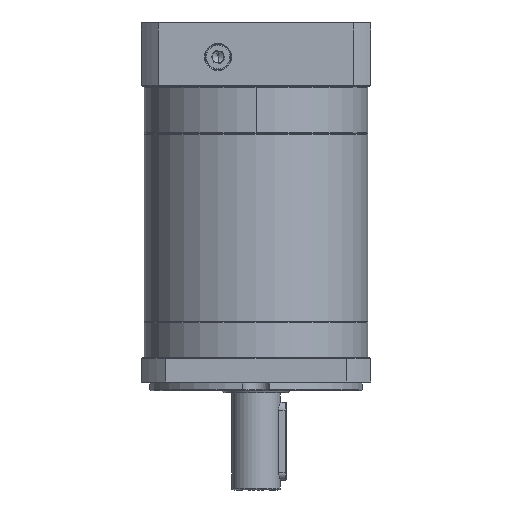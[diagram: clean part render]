
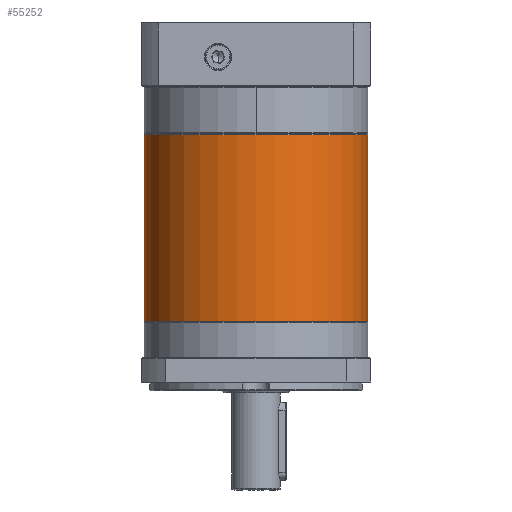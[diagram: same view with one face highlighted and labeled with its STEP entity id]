
A CAD part, front view. The second image highlights one B-rep face of the part: STEP entity #55252.
In plain terms, the highlighted cylindrical face has radius 57.5 mm (diameter 115 mm), a partial arc.
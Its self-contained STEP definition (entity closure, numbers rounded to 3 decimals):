
#591 = DIRECTION ( 'NONE',  ( -1., 0., 0. ) ) ;
#1026 = CARTESIAN_POINT ( 'NONE',  ( 69.759, 44.19, -155.67 ) ) ;
#2435 = CYLINDRICAL_SURFACE ( 'NONE', #80337, 57.5 ) ;
#4925 = CARTESIAN_POINT ( 'NONE',  ( 12.259, 44.19, -59.459 ) ) ;
#7184 = FACE_OUTER_BOUND ( 'NONE', #103035, .T. ) ;
#11523 = AXIS2_PLACEMENT_3D ( 'NONE', #106554, #127247, #96701 ) ;
#15242 = DIRECTION ( 'NONE',  ( 0., 0., -1. ) ) ;
#18919 = CIRCLE ( 'NONE', #113577, 57.5 ) ;
#19130 = CARTESIAN_POINT ( 'NONE',  ( 127.259, 44.19, -155.67 ) ) ;
#24587 = DIRECTION ( 'NONE',  ( 0., 0., -1. ) ) ;
#27499 = ORIENTED_EDGE ( 'NONE', *, *, #57907, .T. ) ;
#31323 = VERTEX_POINT ( 'NONE', #82170 ) ;
#36375 = VERTEX_POINT ( 'NONE', #19130 ) ;
#37518 = CARTESIAN_POINT ( 'NONE',  ( 69.759, 44.19, -59.959 ) ) ;
#47604 = VECTOR ( 'NONE', #24587, 1000. ) ;
#47860 = DIRECTION ( 'NONE',  ( -1., 0., 0. ) ) ;
#53088 = VERTEX_POINT ( 'NONE', #58347 ) ;
#53760 = CARTESIAN_POINT ( 'NONE',  ( 12.259, 44.19, -59.959 ) ) ;
#54942 = EDGE_CURVE ( 'NONE', #78080, #53088, #97208, .T. ) ;
#55252 = ADVANCED_FACE ( 'NONE', ( #7184 ), #2435, .T. ) ;
#57907 = EDGE_CURVE ( 'NONE', #53088, #36375, #18919, .T. ) ;
#58347 = CARTESIAN_POINT ( 'NONE',  ( 12.259, 44.19, -155.67 ) ) ;
#60522 = DIRECTION ( 'NONE',  ( 0., 0., -1. ) ) ;
#67292 = ORIENTED_EDGE ( 'NONE', *, *, #129923, .T. ) ;
#69999 = DIRECTION ( 'NONE',  ( -1., 0., 0. ) ) ;
#76433 = LINE ( 'NONE', #107625, #47604 ) ;
#77778 = VERTEX_POINT ( 'NONE', #120386 ) ;
#78080 = VERTEX_POINT ( 'NONE', #53760 ) ;
#78353 = DIRECTION ( 'NONE',  ( 0., 0., -1. ) ) ;
#79105 = EDGE_CURVE ( 'NONE', #77778, #31323, #85620, .T. ) ;
#80337 = AXIS2_PLACEMENT_3D ( 'NONE', #91972, #60522, #69999 ) ;
#82170 = CARTESIAN_POINT ( 'NONE',  ( 69.759, -13.31, -59.959 ) ) ;
#85620 = CIRCLE ( 'NONE', #93855, 57.5 ) ;
#87518 = VECTOR ( 'NONE', #15242, 1000. ) ;
#91972 = CARTESIAN_POINT ( 'NONE',  ( 69.759, 44.19, -59.459 ) ) ;
#92144 = DIRECTION ( 'NONE',  ( 0., 0., 1. ) ) ;
#93855 = AXIS2_PLACEMENT_3D ( 'NONE', #37518, #78353, #47860 ) ;
#95571 = ORIENTED_EDGE ( 'NONE', *, *, #54942, .T. ) ;
#96701 = DIRECTION ( 'NONE',  ( -1., 0., 0. ) ) ;
#97208 = LINE ( 'NONE', #4925, #87518 ) ;
#97391 = CIRCLE ( 'NONE', #11523, 57.5 ) ;
#99190 = ORIENTED_EDGE ( 'NONE', *, *, #106152, .F. ) ;
#103035 = EDGE_LOOP ( 'NONE', ( #99190, #127668, #67292, #95571, #27499 ) ) ;
#106152 = EDGE_CURVE ( 'NONE', #77778, #36375, #76433, .T. ) ;
#106554 = CARTESIAN_POINT ( 'NONE',  ( 69.759, 44.19, -59.959 ) ) ;
#107625 = CARTESIAN_POINT ( 'NONE',  ( 127.259, 44.19, -59.459 ) ) ;
#113577 = AXIS2_PLACEMENT_3D ( 'NONE', #1026, #92144, #591 ) ;
#120386 = CARTESIAN_POINT ( 'NONE',  ( 127.259, 44.19, -59.959 ) ) ;
#127247 = DIRECTION ( 'NONE',  ( 0., 0., -1. ) ) ;
#127668 = ORIENTED_EDGE ( 'NONE', *, *, #79105, .T. ) ;
#129923 = EDGE_CURVE ( 'NONE', #31323, #78080, #97391, .T. ) ;
